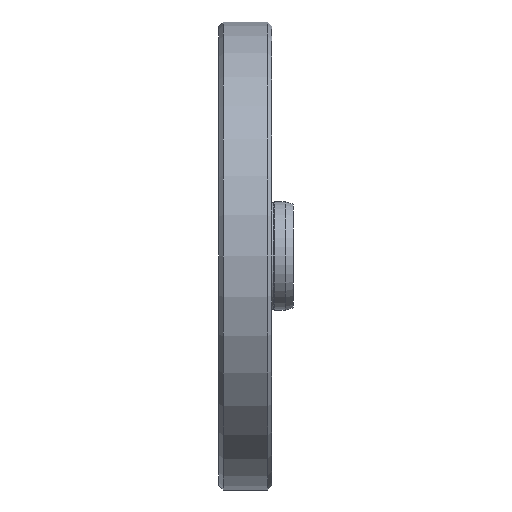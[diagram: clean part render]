
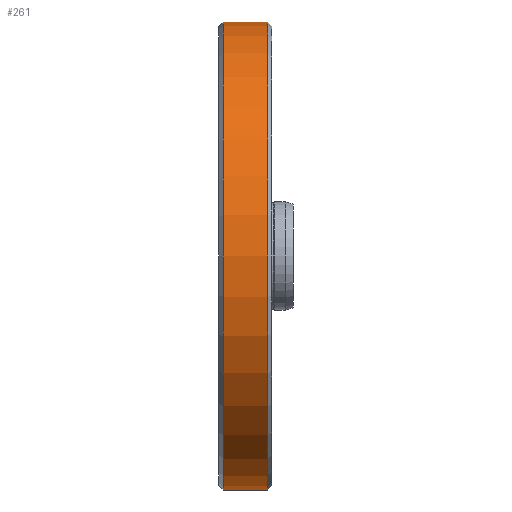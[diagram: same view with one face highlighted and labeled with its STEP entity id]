
A CAD part, left-side view. The second image highlights one B-rep face of the part: STEP entity #261.
In plain terms, the highlighted cylindrical face has radius 110 mm (diameter 220 mm), a partial arc.
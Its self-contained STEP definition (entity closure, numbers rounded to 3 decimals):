
#42 = VERTEX_POINT ( 'NONE', #3186 ) ;
#75 = DIRECTION ( 'NONE',  ( 0., -1., 0. ) ) ;
#241 = LINE ( 'NONE', #805, #2417 ) ;
#252 = ORIENTED_EDGE ( 'NONE', *, *, #624, .T. ) ;
#261 = ADVANCED_FACE ( 'NONE', ( #2801 ), #2385, .T. ) ;
#416 = LINE ( 'NONE', #2892, #3487 ) ;
#443 = CARTESIAN_POINT ( 'NONE',  ( 0., 23., 0. ) ) ;
#624 = EDGE_CURVE ( 'NONE', #42, #1898, #1142, .T. ) ;
#805 = CARTESIAN_POINT ( 'NONE',  ( 0., 25., -110. ) ) ;
#1142 = CIRCLE ( 'NONE', #2117, 110. ) ;
#1397 = EDGE_CURVE ( 'NONE', #3908, #1898, #416, .T. ) ;
#1427 = CARTESIAN_POINT ( 'NONE',  ( 0., 2., 110. ) ) ;
#1650 = CARTESIAN_POINT ( 'NONE',  ( 0., 23., 110. ) ) ;
#1774 = DIRECTION ( 'NONE',  ( 0., -1., 0. ) ) ;
#1785 = ORIENTED_EDGE ( 'NONE', *, *, #3179, .T. ) ;
#1798 = VERTEX_POINT ( 'NONE', #2343 ) ;
#1819 = AXIS2_PLACEMENT_3D ( 'NONE', #443, #2064, #3917 ) ;
#1886 = EDGE_LOOP ( 'NONE', ( #2060, #2140, #1785, #252 ) ) ;
#1898 = VERTEX_POINT ( 'NONE', #1427 ) ;
#1915 = AXIS2_PLACEMENT_3D ( 'NONE', #3641, #75, #3774 ) ;
#2060 = ORIENTED_EDGE ( 'NONE', *, *, #1397, .F. ) ;
#2064 = DIRECTION ( 'NONE',  ( 0., -1., 0. ) ) ;
#2077 = CIRCLE ( 'NONE', #1819, 110. ) ;
#2117 = AXIS2_PLACEMENT_3D ( 'NONE', #2185, #2241, #3137 ) ;
#2140 = ORIENTED_EDGE ( 'NONE', *, *, #2412, .T. ) ;
#2185 = CARTESIAN_POINT ( 'NONE',  ( 0., 2., 0. ) ) ;
#2241 = DIRECTION ( 'NONE',  ( 0., 1., 0. ) ) ;
#2343 = CARTESIAN_POINT ( 'NONE',  ( 0., 23., -110. ) ) ;
#2385 = CYLINDRICAL_SURFACE ( 'NONE', #1915, 110. ) ;
#2412 = EDGE_CURVE ( 'NONE', #3908, #1798, #2077, .T. ) ;
#2417 = VECTOR ( 'NONE', #3557, 1000. ) ;
#2801 = FACE_OUTER_BOUND ( 'NONE', #1886, .T. ) ;
#2892 = CARTESIAN_POINT ( 'NONE',  ( 0., 25., 110. ) ) ;
#3137 = DIRECTION ( 'NONE',  ( 0., 0., 1. ) ) ;
#3179 = EDGE_CURVE ( 'NONE', #1798, #42, #241, .T. ) ;
#3186 = CARTESIAN_POINT ( 'NONE',  ( 0., 2., -110. ) ) ;
#3487 = VECTOR ( 'NONE', #1774, 1000. ) ;
#3557 = DIRECTION ( 'NONE',  ( 0., -1., 0. ) ) ;
#3641 = CARTESIAN_POINT ( 'NONE',  ( 0., 25., 0. ) ) ;
#3774 = DIRECTION ( 'NONE',  ( 0., 0., -1. ) ) ;
#3908 = VERTEX_POINT ( 'NONE', #1650 ) ;
#3917 = DIRECTION ( 'NONE',  ( 0., 0., 1. ) ) ;
